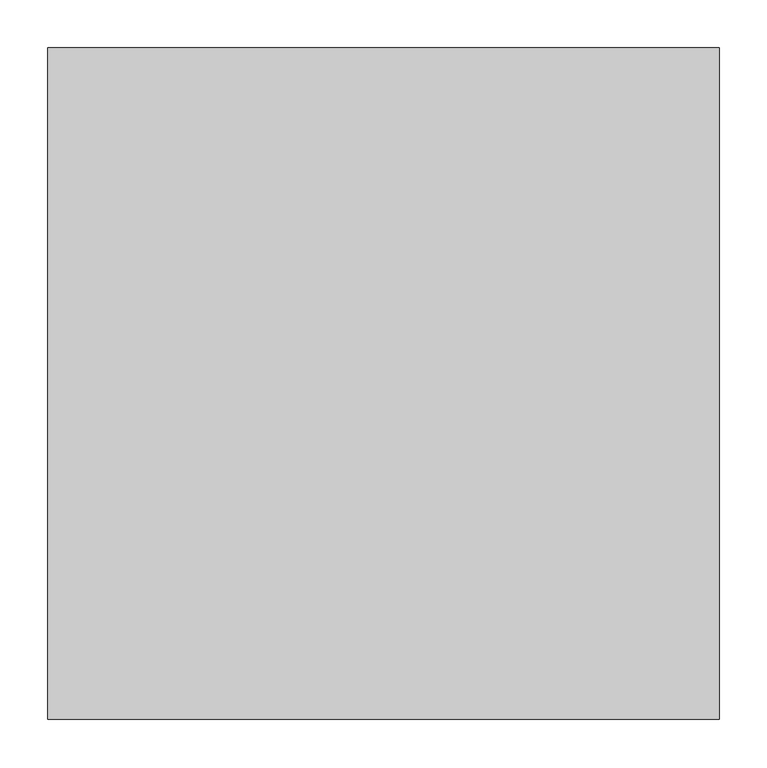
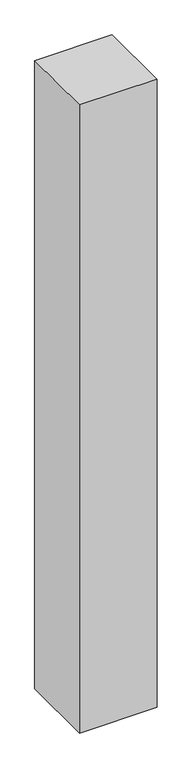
"""IFC4 building model written with IfcOpenShell, lengths in millimetres: column geometry, 矩形柱 : 700*700MM."""

import ifcopenshell
import ifcopenshell.guid

model = None  # the IFC model being written
_history = None  # IfcOwnerHistory: only IFC2X3 demands one
_inside = {}  # id of a spatial element -> (the spatial element, [elements in it])
_under = {}  # id of a project, library or spatial element -> (it, [spatial elements below it])
_declared = {}  # id of a project -> (the project, [libraries it declares])
_typed = {}  # id of a type object -> (the type object, [elements of that type])
_made_of = {}  # id of a material, layer set ... -> (it, [elements and type objects made of it])


def new_model(schema):
    """Start an empty IFC model of exactly this schema.

    Asked for "IFC4X3", IfcOpenShell would pick the latest addendum, in which some entities
    have other attributes; the version numbers below select the first issue.
    IFC2X3 requires an IfcOwnerHistory on every rooted entity: one is made here for all.
    """
    global model, _history
    if schema == "IFC4X3":
        model = ifcopenshell.file(schema_version=(4, 3, 0, 0))
    else:
        model = ifcopenshell.file(schema=schema)
    _inside.clear()
    _under.clear()
    _declared.clear()
    _typed.clear()
    _made_of.clear()
    _history = None
    if model.schema == "IFC2X3":
        org = make("IfcOrganization", Name="unknown")
        user = make(
            "IfcPersonAndOrganization",
            ThePerson=make("IfcPerson", FamilyName="unknown"),
            TheOrganization=org,
        )
        app = make(
            "IfcApplication",
            ApplicationDeveloper=org,
            Version="unknown",
            ApplicationFullName="unknown",
            ApplicationIdentifier="unknown",
        )
        _history = make(
            "IfcOwnerHistory",
            OwningUser=user,
            OwningApplication=app,
            ChangeAction="ADDED",
            CreationDate=0,
        )
    return model


def make(cls, **values):
    """One entity of the class cls with the attributes given. An attribute that is None is left unset."""
    return model.create_entity(
        cls, **{name: value for name, value in values.items() if value is not None}
    )


def rooted(cls, **values):
    """An entity with a GlobalId (a new one), such as an element, a storey or a relation."""
    return make(cls, GlobalId=ifcopenshell.guid.new(), OwnerHistory=_history, **values)


def si_unit(unit_type, name, prefix=None):
    """IfcSIUnit, for example si_unit("LENGTHUNIT", "METRE", prefix="MILLI")."""
    return make("IfcSIUnit", UnitType=unit_type, Prefix=prefix, Name=name)


def assignment(units):
    """IfcUnitAssignment: the units of a project."""
    return None if units is None else make("IfcUnitAssignment", Units=units)


def point(xyz):
    """IfcCartesianPoint."""
    return None if xyz is None else make("IfcCartesianPoint", Coordinates=xyz)


def direction(xyz):
    """IfcDirection."""
    return None if xyz is None else make("IfcDirection", DirectionRatios=xyz)


def frame(location, z_axis=None, x_axis=None):
    """IfcAxis2Placement3D, a coordinate frame: its origin and axes. An axis left out is left unset."""
    return make(
        "IfcAxis2Placement3D",
        Location=point(location),
        Axis=direction(z_axis),
        RefDirection=direction(x_axis),
    )


def origin():
    """The frame at (0, 0, 0) with its axes left unset."""
    return frame((0.0, 0.0, 0.0))


def origin_with_axes():
    """The frame at (0, 0, 0) with the z axis (0, 0, 1) and the x axis (1, 0, 0) written out."""
    return frame((0.0, 0.0, 0.0), z_axis=(0.0, 0.0, 1.0), x_axis=(1.0, 0.0, 0.0))


def place(relative_to, where):
    """IfcLocalPlacement: puts the frame where relative to a parent placement (None: the world)."""
    return make(
        "IfcLocalPlacement", PlacementRelTo=relative_to, RelativePlacement=where
    )


def context(
    kind, dimensions, precision=None, world=None, true_north=None, identifier=None
):
    """IfcGeometricRepresentationContext, for example the 3D "Model" context."""
    return make(
        "IfcGeometricRepresentationContext",
        ContextIdentifier=identifier,
        ContextType=kind,
        CoordinateSpaceDimension=dimensions,
        Precision=precision,
        WorldCoordinateSystem=world,
        TrueNorth=true_north,
    )


def project(units=None, contexts=None):
    """IfcProject with its units and contexts."""
    return rooted(
        "IfcProject",
        Name="project",
        RepresentationContexts=contexts,
        UnitsInContext=assignment(units),
    )


def spatial(cls, under=None, at=None, **own):
    """A site, building, storey or space (cls), placed at a placement, below another one or the project."""
    s = rooted(cls, ObjectPlacement=at, **own)
    if under is not None:
        _under.setdefault(under.id(), (under, []))[1].append(s)
    return s


def polyline(points):
    """IfcPolyline through the points."""
    return make("IfcPolyline", Points=[point(p) for p in points])


def outline(outer, holes=None, kind="AREA"):
    """IfcArbitraryClosedProfileDef: a profile drawn as a closed curve; with holes, ...WithVoids."""
    if holes is None:
        return make("IfcArbitraryClosedProfileDef", ProfileType=kind, OuterCurve=outer)
    return make(
        "IfcArbitraryProfileDefWithVoids",
        ProfileType=kind,
        OuterCurve=outer,
        InnerCurves=holes,
    )


def extrude(swept, where, along, depth):
    """IfcExtrudedAreaSolid: the profile swept, set in the frame where, extruded along a direction by depth."""
    return make(
        "IfcExtrudedAreaSolid",
        SweptArea=swept,
        Position=where,
        ExtrudedDirection=direction(along),
        Depth=depth,
    )


def shape(context_of_items, identifier, shape_type, items):
    """IfcShapeRepresentation: the items that make up one representation, for example the "Body"."""
    return make(
        "IfcShapeRepresentation",
        ContextOfItems=context_of_items,
        RepresentationIdentifier=identifier,
        RepresentationType=shape_type,
        Items=items,
    )


def source(mapping_origin, context_of_items, identifier, shape_type, items):
    """IfcRepresentationMap: a shape defined once, which mapped items show again and again."""
    return make(
        "IfcRepresentationMap",
        MappingOrigin=mapping_origin,
        MappedRepresentation=shape(context_of_items, identifier, shape_type, items),
    )


def transform(
    local_origin,
    x_axis=None,
    y_axis=None,
    z_axis=None,
    scale=None,
    scale2=None,
    scale3=None,
    uniform=True,
):
    """IfcCartesianTransformationOperator3D, or its non-uniform kind. x_axis, y_axis, z_axis: its Axis1, 2, 3."""
    if uniform:
        return make(
            "IfcCartesianTransformationOperator3D",
            Axis1=direction(x_axis),
            Axis2=direction(y_axis),
            LocalOrigin=point(local_origin),
            Scale=scale,
            Axis3=direction(z_axis),
        )
    return make(
        "IfcCartesianTransformationOperator3DnonUniform",
        Axis1=direction(x_axis),
        Axis2=direction(y_axis),
        LocalOrigin=point(local_origin),
        Scale=scale,
        Axis3=direction(z_axis),
        Scale2=scale2,
        Scale3=scale3,
    )


def mapped(mapping_source, mapping_target):
    """IfcMappedItem: shows the shape of a source again, moved by a transform."""
    return make(
        "IfcMappedItem", MappingSource=mapping_source, MappingTarget=mapping_target
    )


def made_of(thing, what):
    """Note that an element or type object is made of a material, layer set ...; save() writes the relation."""
    if what is not None:
        _made_of.setdefault(what.id(), (what, []))[1].append(thing)
    return thing


def element(
    cls,
    number,
    at=None,
    inside=None,
    cuts=None,
    type_object=None,
    material=None,
    context=None,
    identifier="Body",
    shape_type=None,
    held_by="IfcProductDefinitionShape",
    body=None,
    shapes=None,
    **own,
):
    """One element of the class cls, such as IfcWall. Its Tag is "e" and its number.

    at: its placement. inside: the storey or other place that contains it. cuts: it is an
    opening in that element (IfcRelVoidsElement). A single representation is given by context,
    identifier, shape_type and body (its items); several are given by shapes. held_by: the class
    of the entity that holds the representations. save() writes the other relations.
    """
    e = rooted(cls, Tag="e%d" % number, ObjectPlacement=at, **own)
    if body is not None:
        shapes = [shape(context, identifier, shape_type, body)]
    if shapes is not None:
        e.Representation = make(held_by, Representations=shapes)
    if inside is not None:
        _inside.setdefault(inside.id(), (inside, []))[1].append(e)
    if cuts is not None:
        rooted(
            "IfcRelVoidsElement", RelatingBuildingElement=cuts, RelatedOpeningElement=e
        )
    if type_object is not None:
        _typed.setdefault(type_object.id(), (type_object, []))[1].append(e)
    return made_of(e, material)


def aggregate(whole, parts):
    """IfcRelAggregates: a whole, such as a stair, and the parts it consists of."""
    return rooted("IfcRelAggregates", RelatingObject=whole, RelatedObjects=parts)


def save(model, path):
    """Write the relations noted so far, then the file.

    IfcRelAggregates (storeys below a building ...), IfcRelContainedInSpatialStructure (elements
    in a storey), IfcRelDefinesByType, IfcRelAssociatesMaterial and IfcRelDeclares: one each for
    every whole, place, type object, material and project.
    """
    for whole, parts in _under.values():
        aggregate(whole, parts)
    for where, things in _inside.values():
        rooted(
            "IfcRelContainedInSpatialStructure",
            RelatedElements=things,
            RelatingStructure=where,
        )
    for kind, things in _typed.values():
        rooted("IfcRelDefinesByType", RelatedObjects=things, RelatingType=kind)
    for what, things in _made_of.values():
        rooted("IfcRelAssociatesMaterial", RelatedObjects=things, RelatingMaterial=what)
    for by, libraries in _declared.values():
        rooted("IfcRelDeclares", RelatingContext=by, RelatedDefinitions=libraries)
    model.write(path)


def column_5b022033(model_context):
    return source(origin(), model_context, "Body", "SweptSolid", [
        extrude(outline(polyline([(350.0, 350.0), (350.0, -350.0), (-350.0, -350.0), (-350.0, 350.0), (350.0, 350.0)])), origin_with_axes(), (0.0, 0.0, 1.0), 6000.0),
    ])


if __name__ == "__main__":
    model = new_model("IFC4")
    model_context = context("Model", 3, world=origin())
    ifc_project = project(units=[si_unit("LENGTHUNIT", "METRE", prefix="MILLI")], contexts=[model_context])
    site = spatial("IfcSite", under=ifc_project)
    building = spatial("IfcBuilding", under=site)
    placement = place(None, origin())
    column_shape = column_5b022033(model_context)
    element("IfcColumn", 1, ObjectType="矩形柱 : 700*700MM", at=placement, inside=building, context=model_context, shape_type="MappedRepresentation", body=[
        mapped(column_shape, transform((0.0, 0.0, 0.0), x_axis=(1.0, 0.0, 0.0), y_axis=(0.0, 1.0, 0.0), z_axis=(0.0, 0.0, 1.0))),
    ])
    save(model, "model.ifc")
